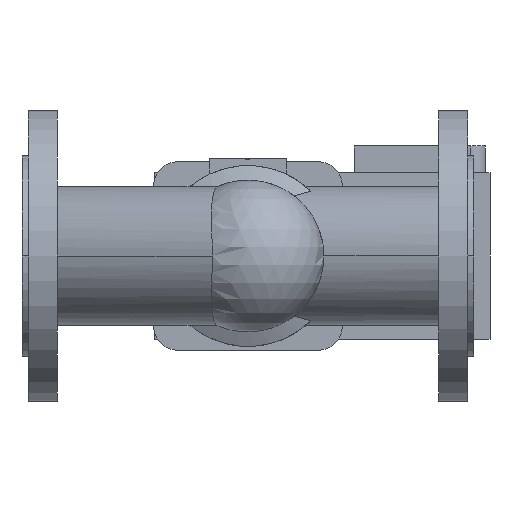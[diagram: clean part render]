
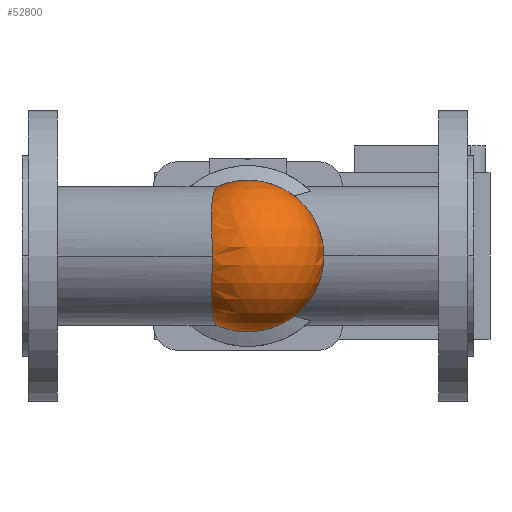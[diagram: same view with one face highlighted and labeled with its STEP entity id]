
A CAD part, front view. The second image highlights one B-rep face of the part: STEP entity #52800.
In plain terms, the highlighted spherical face has radius 52 mm.
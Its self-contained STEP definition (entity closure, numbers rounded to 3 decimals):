
#21030=CARTESIAN_POINT('',(0.,-44.5,0.));
#21040=DIRECTION('',(0.,1.,0.));
#21050=DIRECTION('',(1.,0.,0.));
#21060=AXIS2_PLACEMENT_3D('',#21030,#21040,#21050);
#21070=CIRCLE('',#21060,52.);
#21080=CARTESIAN_POINT('',(-21.423,-44.5,47.382));
#21090=VERTEX_POINT('',#21080);
#21100=CARTESIAN_POINT('',(0.,-44.5,52.));
#21110=VERTEX_POINT('',#21100);
#21120=EDGE_CURVE('',#21090,#21110,#21070,.T.);
#22410=CARTESIAN_POINT('',(-21.423,-44.5,-47.382));
#22420=VERTEX_POINT('',#22410);
#22450=CARTESIAN_POINT('',(0.,-44.5,-52.));
#22460=VERTEX_POINT('',#22450);
#22470=EDGE_CURVE('',#22460,#22420,#21070,.T.);
#22490=EDGE_CURVE('',#21110,#22460,#21070,.T.);
#30110=CARTESIAN_POINT('',(-24.454,-90.391,
0.));
#30120=VERTEX_POINT('',#30110);
#30150=CARTESIAN_POINT('',(-21.423,-44.5,47.382));
#30160=CARTESIAN_POINT('',(-21.488,-44.915,
47.353));
#30170=CARTESIAN_POINT('',(-21.552,-45.332,
47.318));
#30180=CARTESIAN_POINT('',(-21.854,-47.307,
47.128));
#30190=CARTESIAN_POINT('',(-22.086,-48.876,
46.9));
#30200=CARTESIAN_POINT('',(-22.534,-52.009,
46.287));
#30210=CARTESIAN_POINT('',(-22.749,-53.574,
45.9));
#30220=CARTESIAN_POINT('',(-23.155,-56.671,
44.971));
#30230=CARTESIAN_POINT('',(-23.347,-58.203,
44.428));
#30240=CARTESIAN_POINT('',(-23.702,-61.208,
43.194));
#30250=CARTESIAN_POINT('',(-23.866,-62.683,
42.503));
#30260=CARTESIAN_POINT('',(-24.162,-65.552,
40.984));
#30270=CARTESIAN_POINT('',(-24.294,-66.946,
40.157));
#30280=CARTESIAN_POINT('',(-24.526,-69.632,
38.386));
#30290=CARTESIAN_POINT('',(-24.625,-70.924,
37.442));
#30300=CARTESIAN_POINT('',(-24.79,-73.387,
35.461));
#30310=CARTESIAN_POINT('',(-24.855,-74.559,
34.424));
#30320=CARTESIAN_POINT('',(-24.955,-76.74,
32.312));
#30330=CARTESIAN_POINT('',(-24.991,-77.79,
31.203));
#30340=CARTESIAN_POINT('',(-25.036,-79.806,
28.863));
#30350=CARTESIAN_POINT('',(-25.044,-80.773,
27.633));
#30360=CARTESIAN_POINT('',(-25.035,-82.595,
25.069));
#30370=CARTESIAN_POINT('',(-25.018,-83.452,
23.735));
#30380=CARTESIAN_POINT('',(-24.962,-85.035,
20.983));
#30390=CARTESIAN_POINT('',(-24.924,-85.761,
19.566));
#30400=CARTESIAN_POINT('',(-24.836,-87.066,
16.669));
#30410=CARTESIAN_POINT('',(-24.787,-87.644,
15.188));
#30420=CARTESIAN_POINT('',(-24.687,-88.642,
12.187));
#30430=CARTESIAN_POINT('',(-24.638,-89.061,
10.667));
#30440=CARTESIAN_POINT('',(-24.552,-89.729,
7.612));
#30450=CARTESIAN_POINT('',(-24.516,-89.98,
6.077));
#30460=CARTESIAN_POINT('',(-24.467,-90.31,
3.021));
#30470=CARTESIAN_POINT('',(-24.454,-90.391,
1.5));
#30480=CARTESIAN_POINT('',(-24.454,-90.391,
0.));
#30490=CARTESIAN_POINT('',(-24.454,-90.391,
-1.5));
#30500=CARTESIAN_POINT('',(-24.467,-90.31,
-3.021));
#30510=CARTESIAN_POINT('',(-24.516,-89.98,
-6.077));
#30520=CARTESIAN_POINT('',(-24.552,-89.729,
-7.612));
#30530=CARTESIAN_POINT('',(-24.638,-89.061,
-10.667));
#30540=CARTESIAN_POINT('',(-24.687,-88.642,
-12.187));
#30550=CARTESIAN_POINT('',(-24.787,-87.644,
-15.188));
#30560=CARTESIAN_POINT('',(-24.836,-87.066,
-16.669));
#30570=CARTESIAN_POINT('',(-24.924,-85.761,
-19.566));
#30580=CARTESIAN_POINT('',(-24.962,-85.035,
-20.983));
#30590=CARTESIAN_POINT('',(-25.018,-83.452,
-23.735));
#30600=CARTESIAN_POINT('',(-25.035,-82.595,
-25.069));
#30610=CARTESIAN_POINT('',(-25.044,-80.773,
-27.633));
#30620=CARTESIAN_POINT('',(-25.036,-79.806,
-28.863));
#30630=CARTESIAN_POINT('',(-24.991,-77.79,
-31.203));
#30640=CARTESIAN_POINT('',(-24.955,-76.74,
-32.312));
#30650=CARTESIAN_POINT('',(-24.855,-74.559,
-34.424));
#30660=CARTESIAN_POINT('',(-24.79,-73.387,
-35.461));
#30670=CARTESIAN_POINT('',(-24.625,-70.924,
-37.442));
#30680=CARTESIAN_POINT('',(-24.526,-69.632,
-38.386));
#30690=CARTESIAN_POINT('',(-24.294,-66.946,
-40.157));
#30700=CARTESIAN_POINT('',(-24.162,-65.552,
-40.984));
#30710=CARTESIAN_POINT('',(-23.866,-62.683,
-42.503));
#30720=CARTESIAN_POINT('',(-23.702,-61.208,
-43.194));
#30730=CARTESIAN_POINT('',(-23.347,-58.203,
-44.428));
#30740=CARTESIAN_POINT('',(-23.155,-56.671,
-44.971));
#30750=CARTESIAN_POINT('',(-22.749,-53.574,
-45.9));
#30760=CARTESIAN_POINT('',(-22.534,-52.009,
-46.287));
#30770=CARTESIAN_POINT('',(-22.086,-48.876,
-46.9));
#30780=CARTESIAN_POINT('',(-21.854,-47.307,
-47.128));
#30790=CARTESIAN_POINT('',(-21.552,-45.332,
-47.318));
#30800=CARTESIAN_POINT('',(-21.488,-44.915,
-47.353));
#30810=CARTESIAN_POINT('',(-21.423,-44.5,-47.382));
#30820=B_SPLINE_CURVE_WITH_KNOTS('',3,(#30150,#30160,#30170,#30180,
#30190,#30200,#30210,#30220,#30230,#30240,#30250,#30260,#30270,#30280,
#30290,#30300,#30310,#30320,#30330,#30340,#30350,#30360,#30370,#30380,
#30390,#30400,#30410,#30420,#30430,#30440,#30450,#30460,#30470,#30480,
#30490,#30500,#30510,#30520,#30530,#30540,#30550,#30560,#30570,#30580,
#30590,#30600,#30610,#30620,#30630,#30640,#30650,#30660,#30670,#30680,
#30690,#30700,#30710,#30720,#30730,#30740,#30750,#30760,#30770,#30780,
#30790,#30800,#30810),.UNSPECIFIED.,.F.,.F.,(4,2,2,2,2,2,2,2,2,2,2,2,2,2
,2,2,3,2,2,2,2,2,2,2,2,2,2,2,2,2,2,2,4),(220.405,
221.641,226.254,230.866,235.479,
240.091,244.704,249.316,253.929,
258.429,262.929,267.429,271.929,
276.429,280.929,285.43,289.93,
294.43,298.93,303.43,307.93,
312.43,316.93,321.431,325.931,
330.543,335.156,339.768,344.38,
348.993,353.605,358.218,359.455),
.UNSPECIFIED.);
#30830=EDGE_CURVE('',#30120,#22420,#30820,.T.);
#52670=CARTESIAN_POINT('',(0.,-44.5,0.));
#52680=DIRECTION('',(0.,0.,1.));
#52690=DIRECTION('',(1.,0.,0.));
#52700=AXIS2_PLACEMENT_3D('',#52670,#52680,#52690);
#52710=SPHERICAL_SURFACE('',#52700,52.);
#52720=EDGE_CURVE('',#21090,#30120,#30820,.T.);
#52730=ORIENTED_EDGE('',*,*,#52720,.T.);
#52740=ORIENTED_EDGE('',*,*,#21120,.F.);
#52750=ORIENTED_EDGE('',*,*,#22490,.F.);
#52760=ORIENTED_EDGE('',*,*,#22470,.F.);
#52770=ORIENTED_EDGE('',*,*,#30830,.T.);
#52780=EDGE_LOOP('',(#52770,#52760,#52750,#52740,#52730));
#52790=FACE_OUTER_BOUND('',#52780,.T.);
#52800=ADVANCED_FACE('',(#52790),#52710,.T.);
